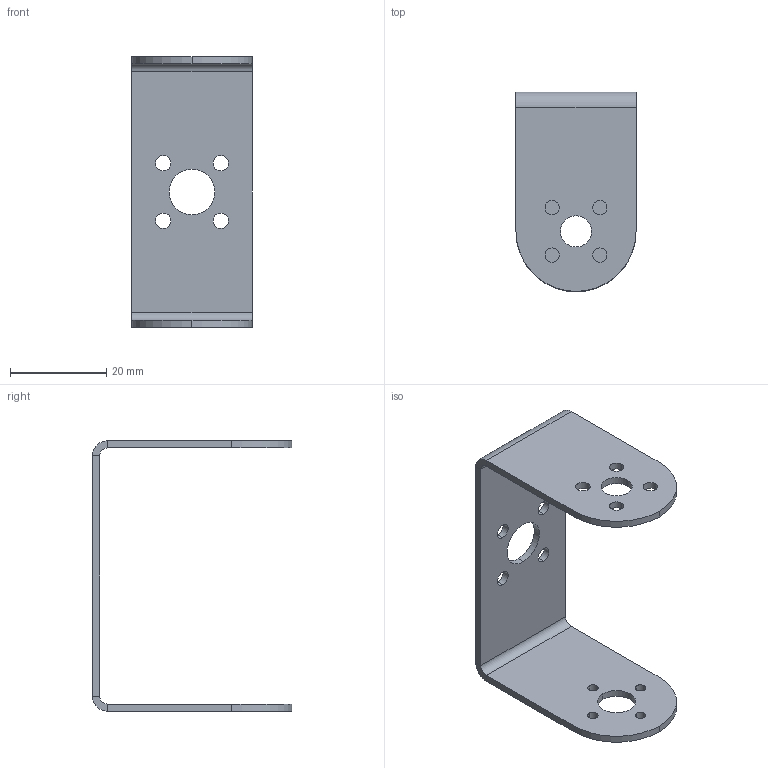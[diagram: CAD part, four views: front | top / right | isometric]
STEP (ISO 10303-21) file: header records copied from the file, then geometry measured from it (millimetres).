
FILE_DESCRIPTION (( 'STEP AP214' ), '1' );
FILE_NAME ('30x Bracket D.STEP', '2024-02-28T20:52:24', ( '' ), ( '' ), 'SwSTEP 2.0', 'SolidWorks 2023', '' );
FILE_SCHEMA (( 'AUTOMOTIVE_DESIGN' ));
Length unit declared in the file: millimetre
Products named in the file (1): 30x Bracket D
Bounding box: 25 x 41.5 x 56.3 mm (x, y, z)
Volume: 4487.8 mm3; surface area: 6700.7 mm2
Topology: 1 solids, 1 shells, 54 faces, 140 edges, 88 vertices
Faces by surface type: cylinder 38, plane 16
Entity records: 1755 total; most frequent: DIRECTION 326, CARTESIAN_POINT 283, ORIENTED_EDGE 280, EDGE_CURVE 140, AXIS2_PLACEMENT_3D 131, VERTEX_POINT 88, EDGE_LOOP 84, CIRCLE 76
